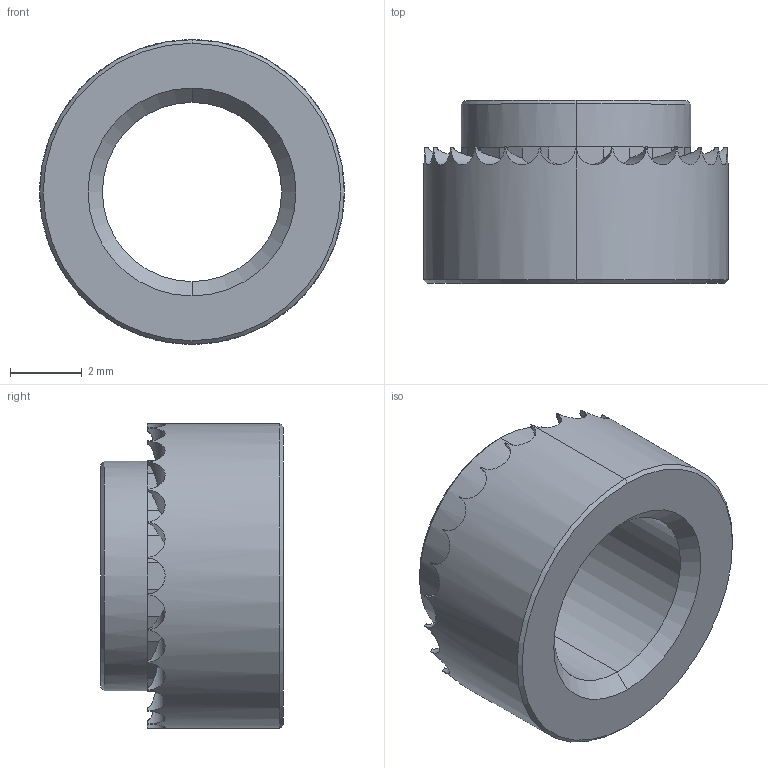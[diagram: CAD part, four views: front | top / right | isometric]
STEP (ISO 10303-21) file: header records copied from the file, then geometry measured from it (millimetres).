
FILE_DESCRIPTION (( 'STEP AP203' ), '1' );
FILE_NAME ('P0829.050-22G-ZP.step', '2019-03-21T22:16:25', ( '' ), ( '' ), 'SwSTEP 2.0', 'SolidWorks 2017', '' );
FILE_SCHEMA (( 'CONFIG_CONTROL_DESIGN' ));
Length unit declared in the file: millimetre
Products named in the file (1): P0829.050-22G-ZP
Bounding box: 8.5 x 5.1 x 8.5 mm (x, y, z)
Volume: 144.3 mm3; surface area: 278.1 mm2
Topology: 1 solids, 1 shells, 120 faces, 294 edges, 176 vertices
Faces by surface type: plane 80, cylinder 32, cone 8
Entity records: 3739 total; most frequent: CARTESIAN_POINT 903, ORIENTED_EDGE 588, DIRECTION 582, EDGE_CURVE 294, AXIS2_PLACEMENT_3D 219, VERTEX_POINT 176, LINE 144, VECTOR 144
